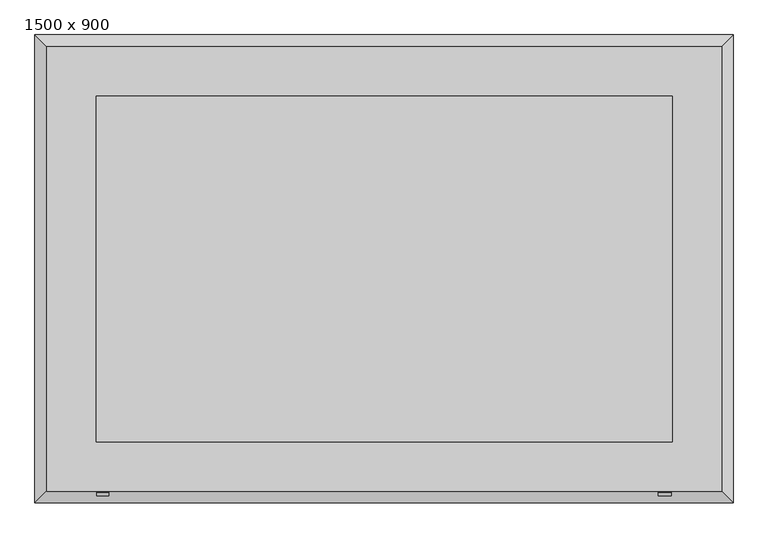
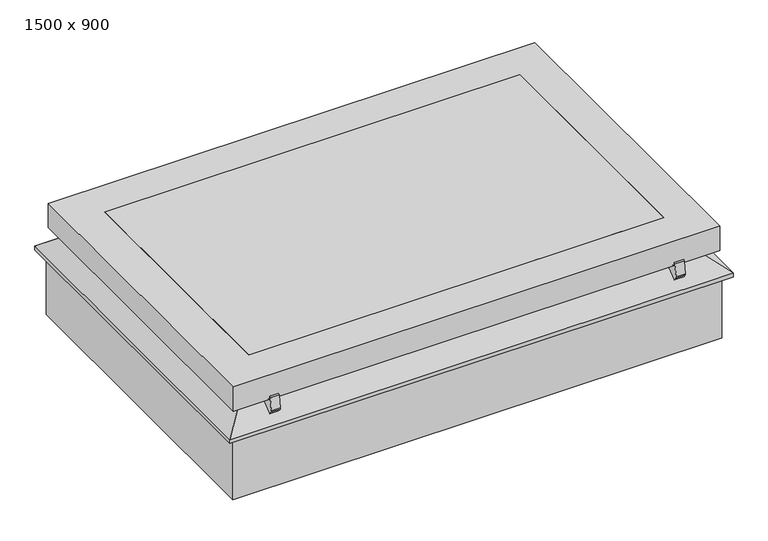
"""IFC4 building model written with IfcOpenShell, lengths in millimetres: proxy geometry, 4_Topaccess_dakluik_1500x900_Staka : 1500 x 900."""

from ifc_helpers import new_model, si_unit, point, frame, frame_2d, origin, place, context, project, spatial, polyline, circle_curve, trimmed, segment, composite_curve, outline, extrude, faceted_brep, source, transform, mapped, element, save


def proxy_1500_x_900_56f5f1ce(model_context):
    return source(origin(), model_context, "Body", "SolidModel", [
        extrude(outline(composite_curve([segment(polyline([(-334.1775112, 328.3506402), (-301.289293, 316.2108892), (-348.1414216, 278.7291863), (-358.0740728, 291.1450004)]), True, "CONTINUOUS"), segment(trimmed(circle_curve(frame_2d((-352.0609228, 295.2162043)), 7.2617267), [point((-358.0740728, 291.1450004))], [point((-359.2338356, 296.3484571))], False, "CARTESIAN"), True, "CONTINUOUS"), segment(polyline([(-359.2338356, 296.3484571), (-352.0421212, 341.9085495)]), True, "CONTINUOUS"), segment(trimmed(circle_curve(frame_2d((-346.6570009, 339.3403204)), 5.9661815), [point((-352.0421212, 341.9085495))], [point((-340.7117924, 338.840502))], False, "CARTESIAN"), True, "CONTINUOUS"), segment(trimmed(circle_curve(frame_2d((-330.6879097, 337.80444)), 10.0772838), [point((-340.7117924, 338.840502))], [point((-334.1775112, 328.3506402))], True, "CARTESIAN"), True, "CONTINUOUS")], self_intersect=False)), frame((-1631.2697623, 0.0, 0.0), z_axis=(1.0, 0.0, 0.0), x_axis=(0.0, 1.0, 0.0)), (0.0, 0.0, 1.0), 31.5237414),
        extrude(outline(composite_curve([segment(polyline([(-334.1775112, 328.3506402), (-301.289293, 316.2108892), (-348.1414216, 278.7291863), (-358.0740728, 291.1450004)]), True, "CONTINUOUS"), segment(trimmed(circle_curve(frame_2d((-352.0609228, 295.2162043)), 7.2617267), [point((-358.0740728, 291.1450004))], [point((-359.2338356, 296.3484571))], False, "CARTESIAN"), True, "CONTINUOUS"), segment(polyline([(-359.2338356, 296.3484571), (-352.0421212, 341.9085495)]), True, "CONTINUOUS"), segment(trimmed(circle_curve(frame_2d((-346.6570009, 339.3403204)), 5.9661815), [point((-352.0421212, 341.9085495))], [point((-340.7117924, 338.840502))], False, "CARTESIAN"), True, "CONTINUOUS"), segment(trimmed(circle_curve(frame_2d((-330.6879097, 337.80444)), 10.0772838), [point((-340.7117924, 338.840502))], [point((-334.1775112, 328.3506402))], True, "CARTESIAN"), True, "CONTINUOUS")], self_intersect=False)), frame((-164.9931051, 0.0, 0.0), z_axis=(1.0, 0.0, 0.0), x_axis=(0.0, 1.0, 0.0)), (0.0, 0.0, 1.0), 33.7233427),
        faceted_brep([(-61.2697623, 753.4470955, 328.0), (30.7302377, 845.4470955, 254.4), (-1793.2697623, 845.4470955, 254.4), (-1701.2697623, 753.4470955, 328.0), (-105.2697623, 709.4470955, 282.0), (-85.7439208, 728.9729371, 328.0), (-1676.7956039, 728.9729371, 328.0), (-1657.2697623, 709.4470955, 282.0), (-131.2697623, 683.4470955, 0.0), (-131.2697623, 683.4470955, 282.0), (-1631.2697623, 683.4470955, 282.0), (-1631.2697623, 683.4470955, 0.0), (4.7302377, 819.4470955, 240.0), (4.7302377, 819.4470955, 0.0), (-1767.2697623, 819.4470955, 0.0), (-1767.2697623, 819.4470955, 240.0), (30.7302377, 845.4470955, 240.0), (-1793.2697623, 845.4470955, 240.0), (-1793.2697623, -378.5529045, 254.4), (-1701.2697623, -286.5529045, 328.0), (-1676.7956039, -262.078746, 328.0), (-1657.2697623, -242.5529045, 282.0), (-1631.2697623, -216.5529045, 282.0), (-1631.2697623, -216.5529045, 0.0), (-1767.2697623, -352.5529045, 0.0), (-1767.2697623, -352.5529045, 240.0), (-1793.2697623, -378.5529045, 240.0), (30.7302377, -378.5529045, 254.4), (-61.2697623, -286.5529045, 328.0), (-85.7439208, -262.078746, 328.0), (-105.2697623, -242.5529045, 282.0), (-131.2697623, -216.5529045, 282.0), (-131.2697623, -216.5529045, 0.0), (4.7302377, -352.5529045, 0.0), (4.7302377, -352.5529045, 240.0), (30.7302377, -378.5529045, 240.0)], [[[0, 1, 2, 3]], [[4, 5, 6, 7]], [[8, 9, 10, 11]], [[12, 13, 14, 15]], [[1, 16, 17, 2]], [[3, 2, 18, 19]], [[7, 6, 20, 21]], [[11, 10, 22, 23]], [[15, 14, 24, 25]], [[2, 17, 26, 18]], [[19, 18, 27, 28]], [[21, 20, 29, 30]], [[23, 22, 31, 32]], [[25, 24, 33, 34]], [[18, 26, 35, 27]], [[28, 27, 1, 0]], [[3, 19, 28, 0], [5, 29, 20, 6]], [[30, 29, 5, 4]], [[7, 21, 30, 4], [9, 31, 22, 10]], [[32, 31, 9, 8]], [[13, 33, 24, 14], [11, 23, 32, 8]], [[34, 33, 13, 12]], [[16, 35, 26, 17], [15, 25, 34, 12]], [[27, 35, 16, 1]]]),
        extrude(outline(polyline([(-1633.2725908, 685.5846734), (-128.2725908, 685.5846734), (-128.2725908, -218.4153266), (-1633.2725908, -218.4153266), (-1633.2725908, 685.5846734)])), frame((0.0, 0.0, 287.0), z_axis=(0.0, 0.0, 1.0), x_axis=(1.0, 0.0, 0.0)), (0.0, 0.0, 1.0), 139.4),
        faceted_brep([(-128.2725908, 685.5846734, 287.0), (-128.2725908, 685.5846734, 426.4), (-1633.2725908, 685.5846734, 426.4), (-1633.2725908, 685.5846734, 287.0), (-85.2725908, 728.5846734, 333.4), (-102.8725908, 710.9846734, 287.0), (-1658.6725908, 710.9846734, 287.0), (-1676.2725908, 728.5846734, 333.4), (0.7274092, 814.5846734, 426.4), (0.7274092, 814.5846734, 333.4), (-1762.2725908, 814.5846734, 333.4), (-1762.2725908, 814.5846734, 426.4), (-1633.2725908, -218.4153266, 426.4), (-1633.2725908, -218.4153266, 287.0), (-1658.6725908, -243.8153266, 287.0), (-1676.2725908, -261.4153266, 333.4), (-1762.2725908, -347.4153266, 333.4), (-1762.2725908, -347.4153266, 426.4), (-128.2725908, -218.4153266, 426.4), (-128.2725908, -218.4153266, 287.0), (-102.8725908, -243.8153266, 287.0), (-85.2725908, -261.4153266, 333.4), (0.7274092, -347.4153266, 333.4), (0.7274092, -347.4153266, 426.4)], [[[0, 1, 2, 3]], [[4, 5, 6, 7]], [[8, 9, 10, 11]], [[3, 2, 12, 13]], [[7, 6, 14, 15]], [[11, 10, 16, 17]], [[13, 12, 18, 19]], [[15, 14, 20, 21]], [[17, 16, 22, 23]], [[19, 18, 1, 0]], [[5, 20, 14, 6], [3, 13, 19, 0]], [[21, 20, 5, 4]], [[9, 22, 16, 10], [7, 15, 21, 4]], [[23, 22, 9, 8]], [[11, 17, 23, 8], [1, 18, 12, 2]]]),
    ])


if __name__ == "__main__":
    model = new_model("IFC4")
    model_context = context("Model", 3, world=origin())
    ifc_project = project(units=[si_unit("LENGTHUNIT", "METRE", prefix="MILLI")], contexts=[model_context])
    site = spatial("IfcSite", under=ifc_project)
    building = spatial("IfcBuilding", under=site)
    placement = place(None, origin())
    proxy_1500_x_900_shape = proxy_1500_x_900_56f5f1ce(model_context)
    element("IfcBuildingElementProxy", 1, Name="4_Topaccess_dakluik_1500x900_Staka : 1500 x 900", ObjectType="4_Topaccess_dakluik_1500x900_Staka : 1500 x 900", at=placement, inside=building, context=model_context, shape_type="MappedRepresentation", body=[
        mapped(proxy_1500_x_900_shape, transform((0.0, 0.0, 0.0), x_axis=(1.0, 0.0, 0.0), y_axis=(0.0, 1.0, 0.0), z_axis=(0.0, 0.0, 1.0))),
    ])
    save(model, "model.ifc")
